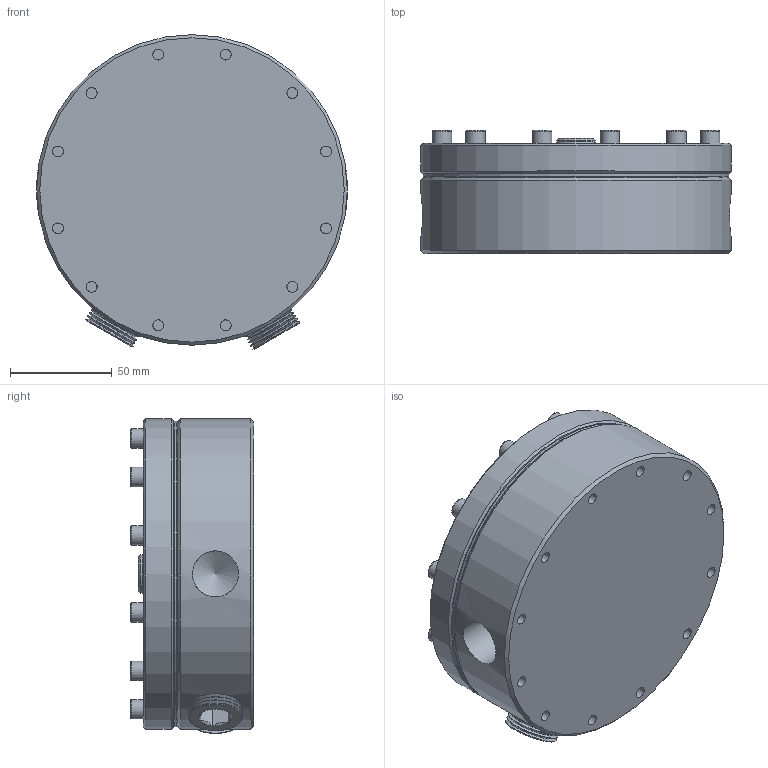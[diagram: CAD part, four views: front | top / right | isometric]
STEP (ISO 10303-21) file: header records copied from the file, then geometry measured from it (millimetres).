
FILE_DESCRIPTION(/* description */ (''),/* implementation_level */ '2;1');
FILE_NAME(/* name */ 'Z:\Models\GS Series\GS6\External Models\GSD6SNX5 External Assembly.stp',/* time_stamp */ '2018-01-10T13:10:46-05:00',/* author */ ('Owner'),/* organization */ (''),/* preprocessor_version */ 'ST-DEVELOPER v15.6',/* originating_system */ 'Autodesk Inventor 2015',/* authorisation */ '');
FILE_SCHEMA (('CONFIG_CONTROL_DESIGN'));
Length unit declared in the file: inch
Products named in the file (8): GSD6 Metal Std. External; GSD6 Reference Cap Metal; Oring - 047; GS(D)6 12 Bolt; Oring - 048; ANSI B18.3 - 1_4-28 UNF - 1.25(31); 3_8_HexPlug; GSD6 Assembly
Assembly tree (19 placements, depth 2):
  GSD6 Assembly
    GSD6 Metal Std. External
    GSD6 Reference Cap Metal
    Oring - 047
    GS(D)6 12 Bolt
    Oring - 048
    ANSI B18.3 - 1_4-28 UNF - 1.25(31)  x12
    3_8_HexPlug  x2
Bounding box: 152.4 x 60.48 x 154.43 mm (x, y, z)
Volume: 817830.8 mm3; surface area: 191121.5 mm2
Topology: 19 solids, 19 shells, 365 faces, 857 edges, 542 vertices
Faces by surface type: plane 144, cone 106, cylinder 84, torus 31
Full cylindrical faces by diameter (mm): 2.381 x1, 5.359 x12, 6.35 x12, 6.528 x24, 8.611 x1, 9.525 x12, 19.05 x1, 22.622 x6, 26.67 x4, 111.963 x1, 116.84 x1, 118.288 x1, 123.165 x1, 149.86 x1, 152.4 x2
Entity records: 4311 total; most frequent: CARTESIAN_POINT 798, DIRECTION 750, ORIENTED_EDGE 476, AXIS2_PLACEMENT_3D 355, EDGE_LOOP 341, EDGE_CURVE 238, VERTEX_POINT 203, FACE_BOUND 187
